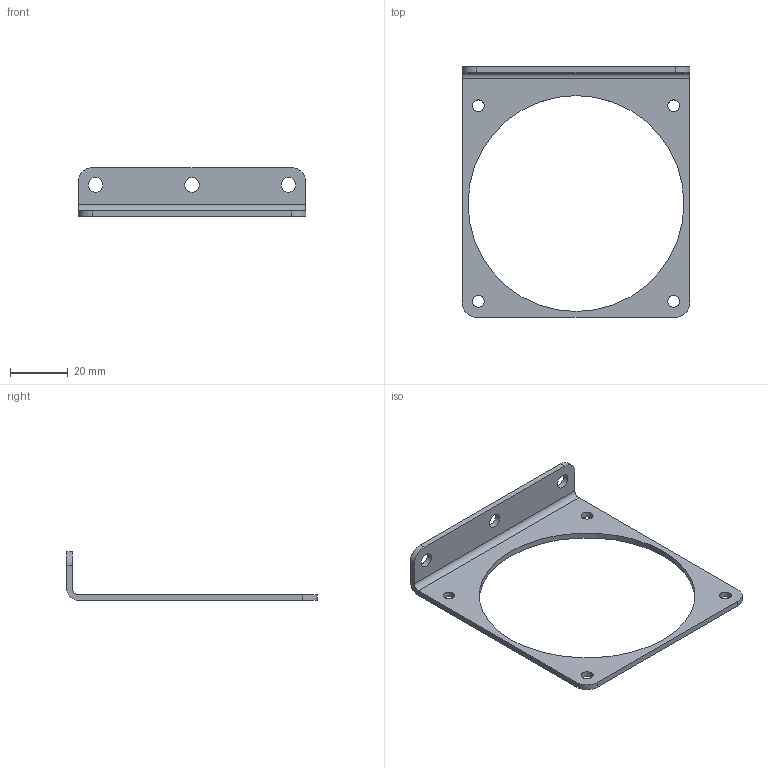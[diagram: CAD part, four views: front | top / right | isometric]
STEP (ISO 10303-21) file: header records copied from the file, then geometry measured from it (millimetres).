
FILE_DESCRIPTION(/* description */ (''),/* implementation_level */ '2;1');
FILE_NAME(/* name */ 'IP54 BRT38 3m-数字量 拉线盒 L支架.stp',/* time_stamp */ '2022-12-24T16:05:39+08:00',/* author */ (''),/* organization */ (''),/* preprocessor_version */ 'ST-DEVELOPER v16.7',/* originating_system */ 'SIEMENS PLM Software NX 12.0',/* authorisation */ '');
FILE_SCHEMA (('AUTOMOTIVE_DESIGN { 1 0 10303 214 3 1 1 1 }'));
Length unit declared in the file: millimetre
Products named in the file (1): LenoA390B0DDdy8e
Bounding box: 79 x 87 x 17 mm (x, y, z)
Volume: 6805.7 mm3; surface area: 8177.8 mm2
Topology: 1 solids, 1 shells, 22 faces, 60 edges, 40 vertices
Faces by surface type: cylinder 14, plane 8
Full cylindrical faces by diameter (mm): 4.1 x4, 5.1 x3, 75 x1
Entity records: 736 total; most frequent: DIRECTION 126, CARTESIAN_POINT 115, ORIENTED_EDGE 104, EDGE_CURVE 52, AXIS2_PLACEMENT_3D 51, EDGE_LOOP 46, VERTEX_POINT 40, FACE_BOUND 36
